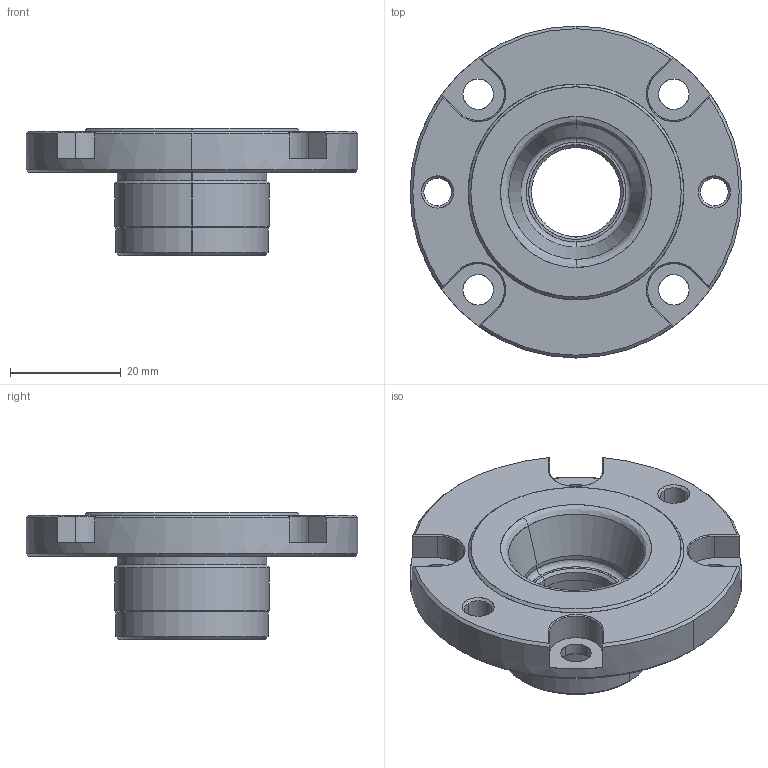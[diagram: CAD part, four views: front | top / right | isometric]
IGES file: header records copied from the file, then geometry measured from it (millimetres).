
Start section: SolidWorks IGES file using analytic representation for surfaces
Global section: file name: X:\11_SW2020-Inv2020\00_全2021-11新製品まで\a\AMWF40-BU-T\amwf40-bu-t.IGS; native system: SolidWorks 2020; preprocessor: SolidWorks 2020; author: ImaoCorp; date: 211021.163536; units: millimetre
Bounding box: 60 x 60 x 23 mm (x, y, z)
Surface area: 9558.3 mm2 (no closed solid volume)
Topology: 0 solids, 0 shells, 111 faces, 1565 edges, 1565 vertices
Faces by surface type: revolution 79, bspline 32
